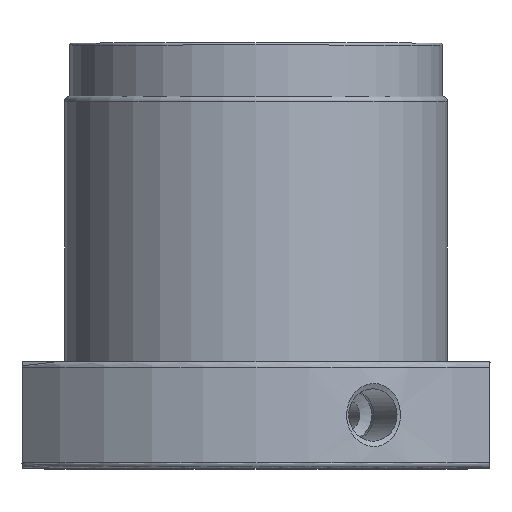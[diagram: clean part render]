
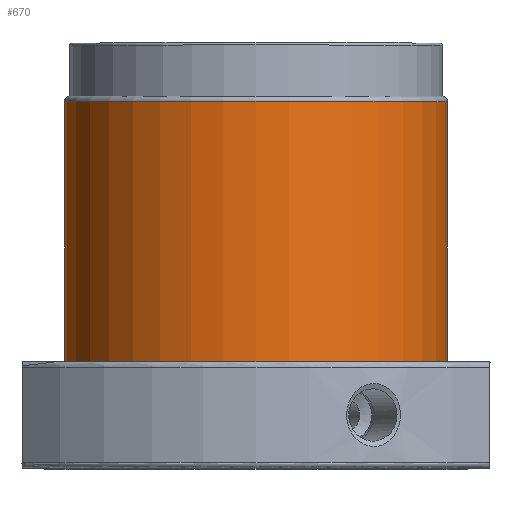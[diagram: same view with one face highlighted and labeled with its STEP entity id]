
A CAD part, top view. The second image highlights one B-rep face of the part: STEP entity #670.
In plain terms, the highlighted cylindrical face has radius 18 mm (diameter 36 mm), a full revolution.
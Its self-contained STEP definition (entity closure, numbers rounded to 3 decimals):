
#79=ORIENTED_EDGE('',*,*,#187,.T.);
#80=ORIENTED_EDGE('',*,*,#188,.F.);
#187=EDGE_CURVE('',#241,#241,#283,.F.);
#188=EDGE_CURVE('',#242,#242,#284,.F.);
#241=VERTEX_POINT('',#1013);
#242=VERTEX_POINT('',#1015);
#283=CIRCLE('',#712,18.);
#284=CIRCLE('',#713,18.);
#319=EDGE_LOOP('',(#79));
#320=EDGE_LOOP('',(#80));
#383=FACE_BOUND('',#319,.T.);
#384=FACE_BOUND('',#320,.T.);
#441=CYLINDRICAL_SURFACE('',#711,18.);
#670=ADVANCED_FACE('',(#383,#384),#441,.T.);
#711=AXIS2_PLACEMENT_3D('',#1011,#790,#791);
#712=AXIS2_PLACEMENT_3D('',#1012,#792,#793);
#713=AXIS2_PLACEMENT_3D('',#1014,#794,#795);
#790=DIRECTION('',(0.,-1.,0.));
#791=DIRECTION('',(0.,0.,-1.));
#792=DIRECTION('',(0.,1.,0.));
#793=DIRECTION('',(0.,0.,1.));
#794=DIRECTION('',(0.,1.,0.));
#795=DIRECTION('',(0.,0.,1.));
#1011=CARTESIAN_POINT('',(0.,40.,0.));
#1012=CARTESIAN_POINT('',(0.,34.5,0.));
#1013=CARTESIAN_POINT('',(0.,34.5,18.));
#1014=CARTESIAN_POINT('',(0.,10.,0.));
#1015=CARTESIAN_POINT('',(0.,10.,18.));
